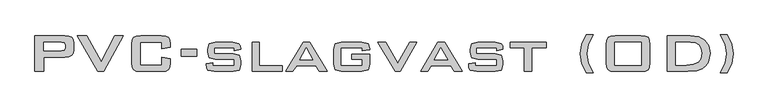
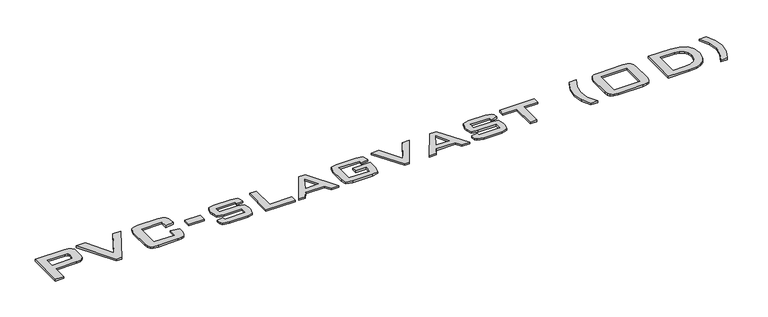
"""IFC4 building model written with IfcOpenShell, lengths in millimetres: flow terminal geometry, ondertitel : PVC Slagvast (OD)."""

from ifc_helpers import new_model, si_unit, origin, origin_with_axes, place, context, project, spatial, polyline, outline, extrude, source, transform, mapped, element, save


def flow_terminal_9f99e00c(model_context):
    return source(origin(), model_context, "Body", "SweptSolid", [
        extrude(outline(polyline([(-287.4619653, 18.5696186), (-287.4619653, 119.4798679), (-202.8865627, 119.4798679), (-191.7943189, 118.2933841), (-184.249701, 114.7339328), (-179.9215973, 108.533471), (-178.4788961, 99.4239559), (-178.4788961, 78.9896304), (-179.9215973, 69.8998243), (-184.249701, 63.6954207), (-191.7943189, 60.1241439), (-202.8865627, 58.9337184), (-263.2435055, 58.9337184), (-263.2435055, 18.5696186), (-287.4619653, 18.5696186)]), holes=[polyline([(-212.8199153, 101.316023), (-263.2435055, 101.316023), (-263.2435055, 77.0975632), (-212.8199153, 77.0975632), (-204.8416987, 78.6900531), (-202.6973559, 84.3504874), (-202.6973559, 94.1261678), (-204.8416987, 99.7077659), (-212.8199153, 101.316023)])]), origin_with_axes(), (0.0, 0.0, 1.0), 5.0),
        extrude(outline(polyline([(-110.4275468, 18.5696186), (-168.3878712, 119.4798679), (-141.7412585, 119.4798679), (-101.1564176, 46.5406784), (-62.4636439, 119.4798679), (-39.2227521, 119.4798679), (-94.3134413, 18.5696186), (-110.4275468, 18.5696186)])), origin_with_axes(), (0.0, 0.0, 1.0), 5.0),
        extrude(outline(polyline([(69.7603171, 101.316023), (9.2141675, 101.316023), (9.2141675, 36.7334635), (69.7603171, 36.7334635), (69.7603171, 58.9337184), (93.9787769, 53.9512748), (93.9787769, 41.7159071), (92.6425045, 30.4265729), (88.6336871, 23.4259244), (80.8801535, 19.7836951), (68.3097322, 18.5696186), (10.6647524, 18.5696186), (-1.964796, 19.7836951), (-9.7065042, 23.4259244), (-13.6798453, 30.4265729), (-15.0042923, 41.7159071), (-15.0042923, 95.7659593), (-13.6798453, 107.2642092), (-9.7065042, 114.4501227), (-1.964796, 118.2224316), (10.6647524, 119.4798679), (68.3097322, 119.4798679), (80.8801535, 118.2224316), (88.6336871, 114.4501227), (92.6425045, 107.2642092), (93.9787769, 95.7659593), (93.9787769, 86.6840369), (69.7603171, 83.1521782), (69.7603171, 101.316023)])), origin_with_axes(), (0.0, 0.0, 1.0), 5.0),
        extrude(outline(polyline([(124.2518517, 60.9519233), (124.2518517, 81.1339732), (168.6523614, 81.1339732), (168.6523614, 60.9519233), (124.2518517, 60.9519233)])), origin_with_axes(), (0.0, 0.0, 1.0), 5.0),
        extrude(outline(polyline([(273.5990206, 85.1703832), (217.089281, 85.1703832), (217.089281, 69.0247433), (270.5717131, 69.0247433), (287.4268782, 64.8779627), (291.7628655, 49.094969), (291.7628655, 38.1209794), (287.3322748, 22.6690975), (270.5717131, 18.5696186), (217.2784877, 18.5696186), (199.540358, 22.6690975), (196.0518591, 28.5818074), (194.8890262, 38.1209794), (194.8890262, 40.0130466), (213.052871, 42.7880785), (213.052871, 34.7152585), (273.5990206, 34.7152585), (273.5990206, 52.8791034), (220.5896053, 52.8791034), (203.4033285, 57.0101167), (198.9254361, 72.3358608), (198.9254361, 80.913232), (203.4033285, 96.9642685), (220.5896053, 101.316023), (269.3418695, 101.316023), (287.0011631, 97.1219408), (290.5724399, 91.3196015), (291.7628655, 82.3007479), (291.7628655, 80.4717497), (273.5990206, 77.0975632), (273.5990206, 85.1703832)])), origin_with_axes(), (0.0, 0.0, 1.0), 5.0),
        extrude(outline(polyline([(324.0541452, 18.5696186), (324.0541452, 101.316023), (344.2361951, 101.316023), (344.2361951, 34.7152585), (408.8187546, 34.7152585), (408.8187546, 18.5696186), (324.0541452, 18.5696186)])), origin_with_axes(), (0.0, 0.0, 1.0), 5.0),
        extrude(outline(polyline([(418.9097795, 18.5696186), (467.472837, 101.316023), (486.6457844, 101.316023), (535.9656687, 18.5696186), (513.5762071, 18.5696186), (503.264441, 34.7152585), (449.1513199, 34.7152585), (438.8395538, 18.5696186), (418.9097795, 18.5696186)]), holes=[polyline([(457.6340877, 50.8608984), (495.1600866, 50.8608984), (476.0817426, 86.0218134), (457.6340877, 50.8608984)])]), origin_with_axes(), (0.0, 0.0, 1.0), 5.0),
        extrude(outline(polyline([(634.857713, 85.1703832), (574.3115634, 85.1703832), (574.3115634, 34.7152585), (634.857713, 34.7152585), (634.857713, 52.8791034), (604.5846382, 52.8791034), (604.5846382, 67.0065383), (655.0397628, 67.0065383), (655.0397628, 38.5624618), (650.5461033, 22.7637009), (633.2809903, 18.5696186), (575.6675449, 18.5696186), (558.5758714, 22.7637009), (554.1295136, 38.5624618), (554.1295136, 81.260111), (558.5758714, 97.0904064), (575.6675449, 101.316023), (633.2809903, 101.316023), (650.4988016, 97.1692425), (655.0397628, 82.1430757), (655.0397628, 80.1248707), (634.857713, 77.0975632), (634.857713, 85.1703832)])), origin_with_axes(), (0.0, 0.0, 1.0), 5.0),
        extrude(outline(polyline([(726.906781, 18.5696186), (677.2400177, 101.316023), (699.9132893, 101.316023), (734.6957908, 41.3059592), (767.4916219, 101.316023), (788.2412919, 101.316023), (740.6558024, 18.5696186), (726.906781, 18.5696186)])), origin_with_axes(), (0.0, 0.0, 1.0), 5.0),
        extrude(outline(polyline([(798.3323168, 18.5696186), (846.8953743, 101.316023), (866.0683216, 101.316023), (915.3882059, 18.5696186), (892.9987444, 18.5696186), (882.6869783, 34.7152585), (828.5738571, 34.7152585), (818.262091, 18.5696186), (798.3323168, 18.5696186)]), holes=[polyline([(837.0566249, 50.8608984), (874.5826239, 50.8608984), (855.5042799, 86.0218134), (837.0566249, 50.8608984)])]), origin_with_axes(), (0.0, 0.0, 1.0), 5.0),
        extrude(outline(polyline([(1012.2620452, 85.1703832), (955.7523056, 85.1703832), (955.7523056, 69.0247433), (1009.2347378, 69.0247433), (1026.0899028, 64.8779627), (1030.4258901, 49.094969), (1030.4258901, 38.1209794), (1025.9952995, 22.6690975), (1009.2347378, 18.5696186), (955.9415124, 18.5696186), (938.2033826, 22.6690975), (934.7148838, 28.5818074), (933.5520508, 38.1209794), (933.5520508, 40.0130466), (951.7158957, 42.7880785), (951.7158957, 34.7152585), (1012.2620452, 34.7152585), (1012.2620452, 52.8791034), (959.2526299, 52.8791034), (942.0663531, 57.0101167), (937.5884608, 72.3358608), (937.5884608, 80.913232), (942.0663531, 96.9642685), (959.2526299, 101.316023), (1008.0048941, 101.316023), (1025.6641877, 97.1219408), (1029.2354645, 91.3196015), (1030.4258901, 82.3007479), (1030.4258901, 80.4717497), (1012.2620452, 77.0975632), (1012.2620452, 85.1703832)])), origin_with_axes(), (0.0, 0.0, 1.0), 5.0),
        extrude(outline(polyline([(1111.1540895, 85.1703832), (1111.1540895, 18.5696186), (1090.9720397, 18.5696186), (1090.9720397, 85.1703832), (1050.60794, 85.1703832), (1050.60794, 101.316023), (1151.5181892, 101.316023), (1151.5181892, 85.1703832), (1111.1540895, 85.1703832)])), origin_with_axes(), (0.0, 0.0, 1.0), 5.0),
        extrude(outline(polyline([(1264.6322718, 121.4980729), (1284.7197183, 121.4980729), (1271.0495329, 94.1577022), (1266.5558734, 67.9841063), (1271.0495329, 41.8735793), (1284.7197183, 14.5332087), (1264.6322718, 14.5332087), (1252.4599729, 40.7856407), (1248.3920285, 67.9841063), (1252.4599729, 95.2456409), (1264.6322718, 121.4980729)])), origin_with_axes(), (0.0, 0.0, 1.0), 5.0),
        extrude(outline(polyline([(1321.047408, 95.4190804), (1322.371855, 107.0789443), (1326.3451961, 114.3712865), (1334.0947879, 118.2027226), (1346.7479871, 119.4798679), (1418.3627296, 119.4798679), (1431.0671723, 118.2027226), (1438.8443568, 114.3712865), (1442.8295233, 107.0789443), (1444.1579121, 95.4190804), (1444.1579121, 41.6528382), (1442.8295233, 30.3910967), (1438.8443568, 23.4101572), (1431.0671723, 19.7797533), (1418.3627296, 18.5696186), (1346.7479871, 18.5696186), (1334.0947879, 19.7797533), (1326.3451961, 23.4101572), (1322.371855, 30.3910967), (1321.047408, 41.6528382), (1321.047408, 95.4190804)]), holes=[polyline([(1345.2658678, 36.7334635), (1419.9394523, 36.7334635), (1419.9394523, 101.316023), (1345.2658678, 101.316023), (1345.2658678, 36.7334635)])]), origin_with_axes(), (0.0, 0.0, 1.0), 5.0),
        extrude(outline(polyline([(1492.5948318, 18.5696186), (1492.5948318, 119.4798679), (1557.019719, 119.4798679), (1581.1711681, 116.2357611), (1599.007843, 106.5034405), (1610.0173089, 90.8032248), (1613.6871309, 69.6554323), (1607.9636277, 44.2071289), (1601.0772915, 34.0924531), (1591.8652895, 26.390163), (1575.7827185, 20.4301514), (1551.1858452, 18.5696186), (1492.5948318, 18.5696186)]), holes=[polyline([(1516.8132916, 36.7334635), (1546.298005, 36.7334635), (1566.3972769, 38.6412979), (1579.645689, 44.3648011), (1587.0129255, 54.4794769), (1589.468671, 69.560829), (1587.430757, 83.3059086), (1581.317015, 93.2589703), (1571.2141646, 99.3017599), (1557.2089257, 101.316023), (1516.8132916, 101.316023), (1516.8132916, 36.7334635)])]), origin_with_axes(), (0.0, 0.0, 1.0), 5.0),
        extrude(outline(polyline([(1662.0294472, 121.4980729), (1674.2175132, 95.1037358), (1678.2696904, 67.9841063), (1674.2175132, 40.8802441), (1662.0294472, 14.5332087), (1641.9420007, 14.5332087), (1655.612186, 41.8735793), (1660.1058455, 67.9841063), (1655.612186, 94.1577022), (1641.9420007, 121.4980729), (1662.0294472, 121.4980729)])), origin_with_axes(), (0.0, 0.0, 1.0), 5.0),
    ])


if __name__ == "__main__":
    model = new_model("IFC4")
    model_context = context("Model", 3, world=origin())
    ifc_project = project(units=[si_unit("LENGTHUNIT", "METRE", prefix="MILLI")], contexts=[model_context])
    site = spatial("IfcSite", under=ifc_project)
    building = spatial("IfcBuilding", under=site)
    placement = place(None, origin())
    flow_terminal_shape = flow_terminal_9f99e00c(model_context)
    element("IfcFlowTerminal", 1, ObjectType="ondertitel : PVC Slagvast (OD)", at=placement, inside=building, context=model_context, shape_type="MappedRepresentation", body=[
        mapped(flow_terminal_shape, transform((0.0, 0.0, 0.0), x_axis=(1.0, 0.0, 0.0), y_axis=(0.0, 1.0, 0.0), z_axis=(0.0, 0.0, 1.0))),
    ])
    save(model, "model.ifc")
